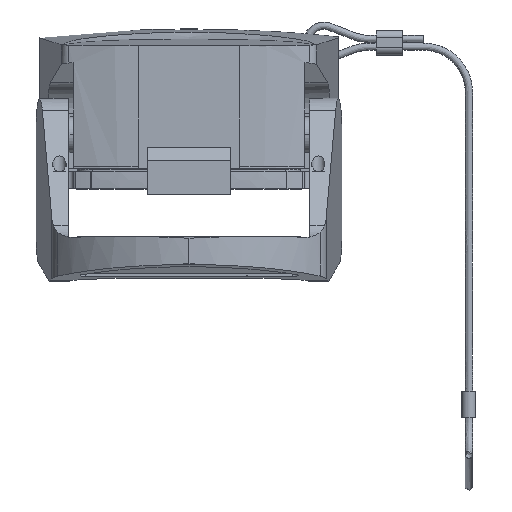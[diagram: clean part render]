
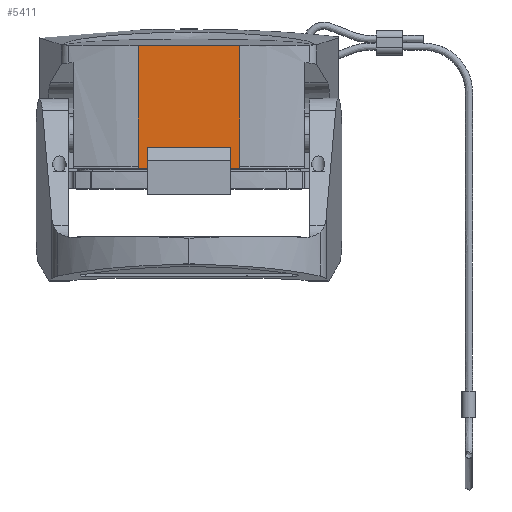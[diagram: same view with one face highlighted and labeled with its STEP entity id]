
A CAD part, left-side view. The second image highlights one B-rep face of the part: STEP entity #5411.
In plain terms, the highlighted planar face has unit normal (-1, 0, 0).
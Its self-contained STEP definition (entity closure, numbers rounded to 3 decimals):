
#3755=LINE('',#16948,#4526);
#3759=LINE('',#16956,#4530);
#3885=LINE('',#21859,#4656);
#3938=LINE('',#23348,#4709);
#3939=LINE('',#23366,#4710);
#3949=LINE('',#23417,#4720);
#3951=LINE('',#23421,#4722);
#3953=LINE('',#23424,#4724);
#3954=LINE('',#23427,#4725);
#3955=LINE('',#23429,#4726);
#4526=VECTOR('',#14505,1.);
#4530=VECTOR('',#14509,1.);
#4656=VECTOR('',#14866,1.);
#4709=VECTOR('',#15008,1.);
#4710=VECTOR('',#15009,1.);
#4720=VECTOR('',#15023,1.);
#4722=VECTOR('',#15027,1.);
#4724=VECTOR('',#15031,1.);
#4725=VECTOR('',#15036,1.);
#4726=VECTOR('',#15037,1.);
#5411=ADVANCED_FACE('',(#6256),#5907,.T.);
#5907=PLANE('',#13717);
#6256=FACE_OUTER_BOUND('',#6814,.T.);
#6814=EDGE_LOOP('',(#8288,#8289,#8290,#8291,#8292,#8293,#8294,#8295,#8296,
#8297));
#8288=ORIENTED_EDGE('',*,*,#11818,.T.);
#8289=ORIENTED_EDGE('',*,*,#11341,.T.);
#8290=ORIENTED_EDGE('',*,*,#11804,.T.);
#8291=ORIENTED_EDGE('',*,*,#11802,.T.);
#8292=ORIENTED_EDGE('',*,*,#11720,.T.);
#8293=ORIENTED_EDGE('',*,*,#11819,.F.);
#8294=ORIENTED_EDGE('',*,*,#11820,.T.);
#8295=ORIENTED_EDGE('',*,*,#11345,.T.);
#8296=ORIENTED_EDGE('',*,*,#11814,.T.);
#8297=ORIENTED_EDGE('',*,*,#11816,.T.);
#10323=VERTEX_POINT('',#16947);
#10324=VERTEX_POINT('',#16949);
#10327=VERTEX_POINT('',#16955);
#10328=VERTEX_POINT('',#16957);
#10591=VERTEX_POINT('',#21858);
#10592=VERTEX_POINT('',#21860);
#10638=VERTEX_POINT('',#23349);
#10645=VERTEX_POINT('',#23416);
#10646=VERTEX_POINT('',#23420);
#10647=VERTEX_POINT('',#23428);
#11341=EDGE_CURVE('',#10324,#10323,#3755,.T.);
#11345=EDGE_CURVE('',#10328,#10327,#3759,.T.);
#11720=EDGE_CURVE('',#10592,#10591,#3885,.T.);
#11802=EDGE_CURVE('',#10638,#10592,#3938,.T.);
#11804=EDGE_CURVE('',#10323,#10638,#3939,.T.);
#11814=EDGE_CURVE('',#10327,#10645,#3949,.T.);
#11816=EDGE_CURVE('',#10645,#10646,#3951,.T.);
#11818=EDGE_CURVE('',#10646,#10324,#3953,.T.);
#11819=EDGE_CURVE('',#10647,#10591,#3954,.T.);
#11820=EDGE_CURVE('',#10647,#10328,#3955,.T.);
#13717=AXIS2_PLACEMENT_3D('',#23430,#15038,#15039);
#14505=DIRECTION('',(0.,-1.,0.));
#14509=DIRECTION('',(0.,-1.,0.));
#14866=DIRECTION('',(0.,1.,0.));
#15008=DIRECTION('',(0.,0.,1.));
#15009=DIRECTION('',(0.,0.,1.));
#15023=DIRECTION('',(0.,0.,1.));
#15027=DIRECTION('',(0.,-1.,0.));
#15031=DIRECTION('',(0.,0.,-1.));
#15036=DIRECTION('',(0.,0.,1.));
#15037=DIRECTION('',(0.,0.,-1.));
#15038=DIRECTION('',(-1.,0.,0.));
#15039=DIRECTION('',(0.,-1.,0.));
#16947=CARTESIAN_POINT('',(-60.5,-9.687,4.));
#16948=CARTESIAN_POINT('',(-60.5,-8.5,4.));
#16949=CARTESIAN_POINT('',(-60.5,-8.,4.));
#16955=CARTESIAN_POINT('',(-60.5,8.,4.));
#16956=CARTESIAN_POINT('',(-60.5,9.687,4.));
#16957=CARTESIAN_POINT('',(-60.5,9.687,4.));
#21858=CARTESIAN_POINT('',(-60.5,9.687,27.4));
#21859=CARTESIAN_POINT('',(-60.5,10.756,27.4));
#21860=CARTESIAN_POINT('',(-60.5,-9.687,27.4));
#23348=CARTESIAN_POINT('',(-60.5,-9.687,4.4));
#23349=CARTESIAN_POINT('',(-60.5,-9.687,4.4));
#23366=CARTESIAN_POINT('',(-60.5,-9.687,4.));
#23416=CARTESIAN_POINT('',(-60.5,8.,8.));
#23417=CARTESIAN_POINT('',(-60.5,8.,1.707));
#23420=CARTESIAN_POINT('',(-60.5,-8.,8.));
#23421=CARTESIAN_POINT('',(-60.5,10.756,8.));
#23424=CARTESIAN_POINT('',(-60.5,-8.,1.707));
#23427=CARTESIAN_POINT('',(-60.5,9.687,4.4));
#23428=CARTESIAN_POINT('',(-60.5,9.687,4.4));
#23429=CARTESIAN_POINT('',(-60.5,9.687,4.4));
#23430=CARTESIAN_POINT('',(-60.5,10.756,1.707));
